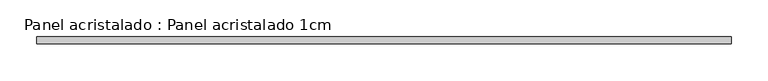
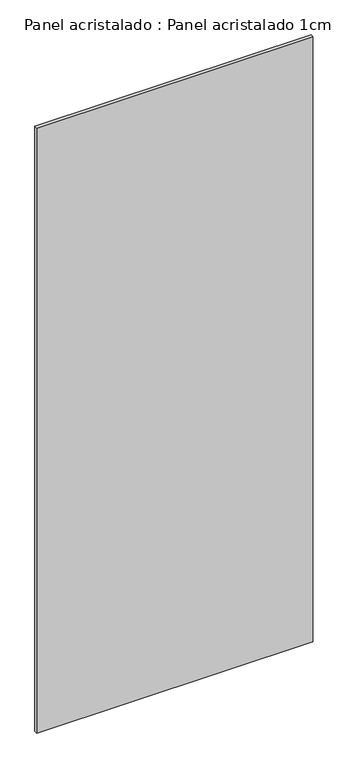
"""IFC4 building model written with IfcOpenShell, lengths in millimetres: plate geometry, Panel acristalado : Panel acristalado 1cm."""

from ifc_helpers import new_model, si_unit, origin, origin_with_axes, place, context, project, spatial, polyline, outline, extrude, source, transform, mapped, element, save


def panel_acristalado_panel_acristalado_1cm_c8c176f6(model_context):
    return source(origin(), model_context, "Body", "SweptSolid", [
        extrude(outline(polyline([(475.0, 20.0), (-475.0, 20.0), (-475.0, 30.0), (475.0, 30.0), (475.0, 20.0)])), origin_with_axes(), (0.0, 0.0, 1.0), 2200.0),
    ])


if __name__ == "__main__":
    model = new_model("IFC4")
    model_context = context("Model", 3, world=origin())
    ifc_project = project(units=[si_unit("LENGTHUNIT", "METRE", prefix="MILLI")], contexts=[model_context])
    site = spatial("IfcSite", under=ifc_project)
    building = spatial("IfcBuilding", under=site)
    placement = place(None, origin())
    panel_acristalado_panel_acristalado_1cm_shape = panel_acristalado_panel_acristalado_1cm_c8c176f6(model_context)
    element("IfcPlate", 1, ObjectType="Panel acristalado : Panel acristalado 1cm", at=placement, inside=building, context=model_context, shape_type="MappedRepresentation", body=[
        mapped(panel_acristalado_panel_acristalado_1cm_shape, transform((0.0, 0.0, 0.0), x_axis=(1.0, 0.0, 0.0), y_axis=(0.0, 1.0, 0.0), z_axis=(0.0, 0.0, 1.0))),
    ])
    save(model, "model.ifc")
